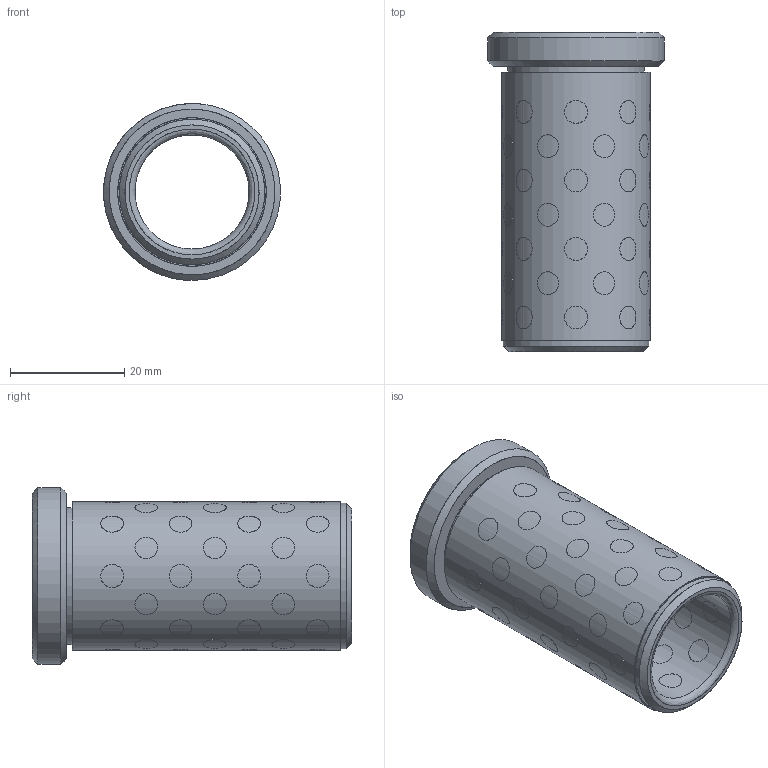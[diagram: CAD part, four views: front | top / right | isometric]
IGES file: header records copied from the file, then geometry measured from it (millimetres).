
Start section: Missler Software BP 521, 31674 Labege Cedex, France Tel   : +33 (0)5 61 00 03 00 Fax   : +33 (0)5 61 00 03 03 Email : sup.topsolid@topsolid.com
Global section: file name: D:\Cuma\D30.05\D30.05_2056.igs; native system: TopSolid v605250 Missler Software; preprocessor: IGES preprocessor v100000; date: 030120.204112; units: millimetre
Bounding box: 30.93 x 56 x 31 mm (x, y, z)
Surface area: 13546.1 mm2 (no closed solid volume)
Topology: 0 solids, 0 shells, 231 faces, 5108 edges, 4956 vertices
Faces by surface type: bspline 231
